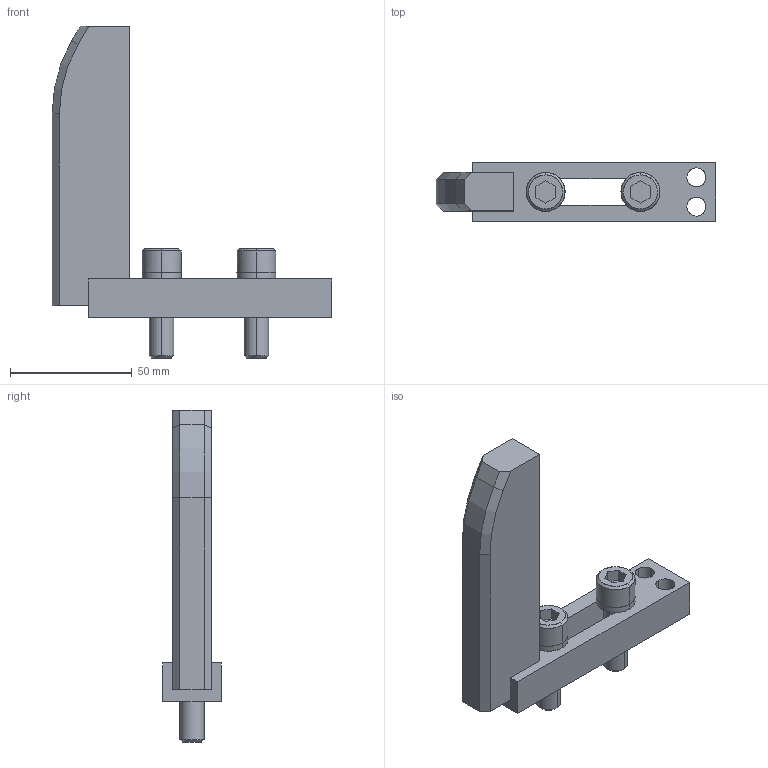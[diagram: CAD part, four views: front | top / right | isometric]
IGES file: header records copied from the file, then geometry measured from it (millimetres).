
Global section: file name: E:\UnigraphicsGraphicData\MISUMI_PRESS-PARTS\IGES\3d_ngnba-120-20-m10_01525_r00.igs; native system: NX V5.0; preprocessor: UGS NX IGES V5.0; author: MISUMI; date: 20110105.162046; units: millimetre
Bounding box: 115 x 24 x 136.5 mm (x, y, z)
Surface area: 27175.9 mm2 (no closed solid volume)
Topology: 0 solids, 0 shells, 100 faces, 630 edges, 630 vertices
Faces by surface type: bspline 100
